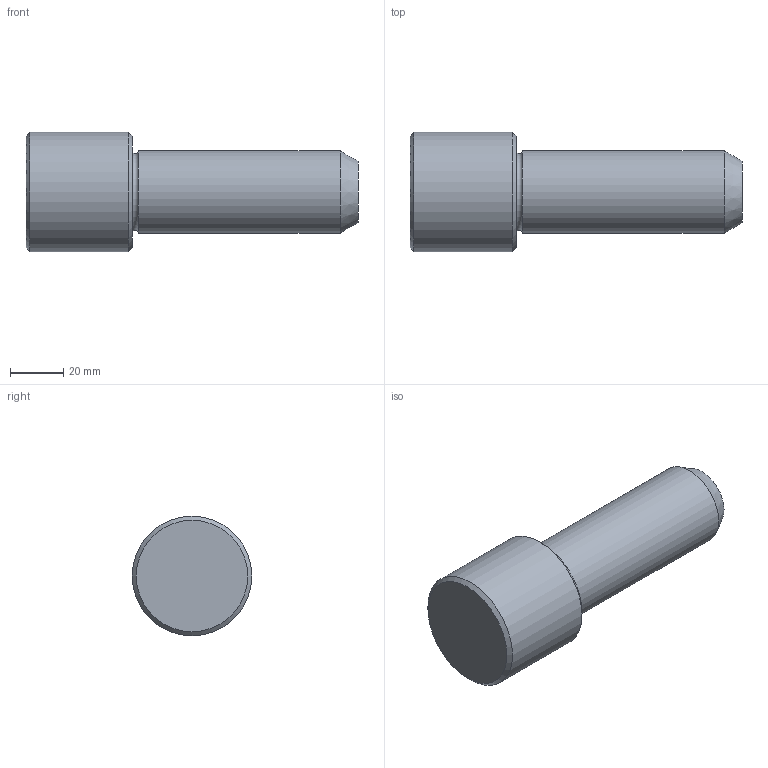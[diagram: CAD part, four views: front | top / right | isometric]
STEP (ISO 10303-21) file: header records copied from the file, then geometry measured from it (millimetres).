
FILE_DESCRIPTION(/* description */ ('Impex Ready, www.impex-ready.pl'),/* implementation_level */ '2;1');
FILE_NAME(/* name */ 'C:\Users\VIKKY\Nextcloud\SM\projekt 10 - części na stronę internetową\Pliki_3D_new\286 Słupy C3\286 C3_STEP\C331125.ipt.step',/* time_stamp */ '2021-12-21T12:03:12+01:00',/* author */ ('SM'),/* organization */ (''),/* preprocessor_version */ 'ST-DEVELOPER v18.1',/* originating_system */ 'Autodesk Inventor 2021',/* authorisation */ '');
FILE_SCHEMA (('AUTOMOTIVE_DESIGN { 1 0 10303 214 3 1 1 }'));
Length unit declared in the file: millimetre
Products named in the file (1): C331125
Bounding box: 125 x 45 x 45 mm (x, y, z)
Volume: 126116.8 mm3; surface area: 16645.9 mm2
Topology: 1 solids, 1 shells, 9 faces, 18 edges, 12 vertices
Faces by surface type: cone 3, plane 3, cylinder 2, torus 1
Full cylindrical faces by diameter (mm): 31 x1, 45 x1
Entity records: 313 total; most frequent: DIRECTION 51, CARTESIAN_POINT 40, ORIENTED_EDGE 36, AXIS2_PLACEMENT_3D 23, EDGE_CURVE 18, CIRCLE 13, VERTEX_POINT 12, EDGE_LOOP 10
